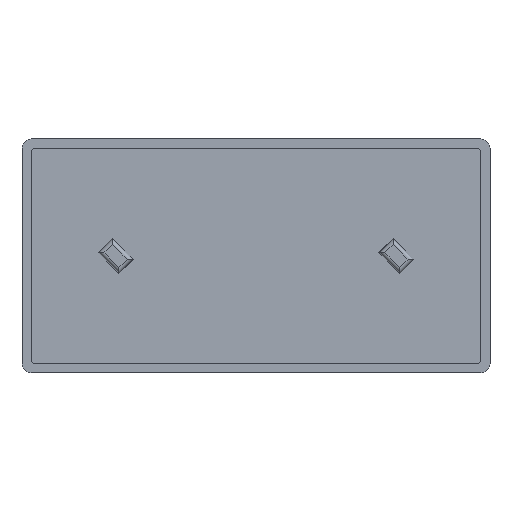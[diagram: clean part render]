
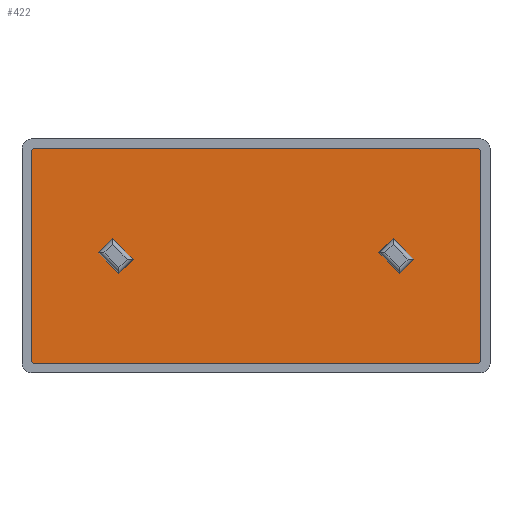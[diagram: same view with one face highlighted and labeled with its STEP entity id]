
A CAD part, front view. The second image highlights one B-rep face of the part: STEP entity #422.
In plain terms, the highlighted planar face has unit normal (0, -1, 0).
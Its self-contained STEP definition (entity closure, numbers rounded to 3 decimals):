
#14 = CARTESIAN_POINT ( 'NONE',  ( -47.2, 0., 23. ) ) ;
#16 = CARTESIAN_POINT ( 'NONE',  ( 47.2, 0., 22.2 ) ) ;
#24 = CARTESIAN_POINT ( 'NONE',  ( -48., 0., 22.2 ) ) ;
#32 = EDGE_CURVE ( 'NONE', #482, #255, #1279, .T. ) ;
#49 = EDGE_CURVE ( 'NONE', #406, #482, #990, .T. ) ;
#50 = AXIS2_PLACEMENT_3D ( 'NONE', #1079, #505, #1180 ) ;
#58 = CARTESIAN_POINT ( 'NONE',  ( -29.293, 0., -3.748 ) ) ;
#59 = CARTESIAN_POINT ( 'NONE',  ( -47.2, 0., -23. ) ) ;
#62 = CARTESIAN_POINT ( 'NONE',  ( -48., 0., -22.2 ) ) ;
#73 = DIRECTION ( 'NONE',  ( 1., 0., 0. ) ) ;
#86 = VECTOR ( 'NONE', #1117, 1000. ) ;
#93 = AXIS2_PLACEMENT_3D ( 'NONE', #16, #799, #127 ) ;
#94 = DIRECTION ( 'NONE',  ( 0., 0., -1. ) ) ;
#95 = ORIENTED_EDGE ( 'NONE', *, *, #1323, .T. ) ;
#98 = DIRECTION ( 'NONE',  ( 0., -1., 0. ) ) ;
#103 = CARTESIAN_POINT ( 'NONE',  ( -47.2, 0., -22.2 ) ) ;
#123 = DIRECTION ( 'NONE',  ( -1., 0., 0. ) ) ;
#125 = LINE ( 'NONE', #697, #942 ) ;
#127 = DIRECTION ( 'NONE',  ( 0., 0., -1. ) ) ;
#135 = DIRECTION ( 'NONE',  ( 0.707, 0., 0.707 ) ) ;
#139 = CARTESIAN_POINT ( 'NONE',  ( -30.707, 0., 3.748 ) ) ;
#151 = VERTEX_POINT ( 'NONE', #59 ) ;
#196 = DIRECTION ( 'NONE',  ( 0., 0., -1. ) ) ;
#204 = VECTOR ( 'NONE', #1174, 1000. ) ;
#207 = PLANE ( 'NONE',  #707 ) ;
#225 = CARTESIAN_POINT ( 'NONE',  ( -47.2, 0., 22.2 ) ) ;
#232 = CIRCLE ( 'NONE', #722, 0.8 ) ;
#255 = VERTEX_POINT ( 'NONE', #726 ) ;
#260 = ORIENTED_EDGE ( 'NONE', *, *, #1274, .F. ) ;
#283 = LINE ( 'NONE', #973, #1286 ) ;
#296 = DIRECTION ( 'NONE',  ( 0., -1., 0. ) ) ;
#310 = ORIENTED_EDGE ( 'NONE', *, *, #1256, .F. ) ;
#340 = LINE ( 'NONE', #841, #622 ) ;
#350 = CARTESIAN_POINT ( 'NONE',  ( -48., 0., 22.2 ) ) ;
#352 = ORIENTED_EDGE ( 'NONE', *, *, #1263, .T. ) ;
#360 = ORIENTED_EDGE ( 'NONE', *, *, #424, .T. ) ;
#386 = VECTOR ( 'NONE', #431, 1000. ) ;
#406 = VERTEX_POINT ( 'NONE', #448 ) ;
#417 = LINE ( 'NONE', #139, #86 ) ;
#422 = ADVANCED_FACE ( 'NONE', ( #829, #542, #1333 ), #207, .T. ) ;
#424 = EDGE_CURVE ( 'NONE', #480, #151, #232, .T. ) ;
#431 = DIRECTION ( 'NONE',  ( -0.707, 0., -0.707 ) ) ;
#440 = DIRECTION ( 'NONE',  ( 0., -1., 0. ) ) ;
#441 = ORIENTED_EDGE ( 'NONE', *, *, #1222, .T. ) ;
#448 = CARTESIAN_POINT ( 'NONE',  ( -33.748, 0., 0.707 ) ) ;
#461 = EDGE_LOOP ( 'NONE', ( #310, #260, #850, #530 ) ) ;
#468 = CARTESIAN_POINT ( 'NONE',  ( 26.252, 0., 0.707 ) ) ;
#480 = VERTEX_POINT ( 'NONE', #62 ) ;
#482 = VERTEX_POINT ( 'NONE', #58 ) ;
#494 = VECTOR ( 'NONE', #1273, 1000. ) ;
#501 = CARTESIAN_POINT ( 'NONE',  ( 29.293, 0., 3.748 ) ) ;
#502 = ORIENTED_EDGE ( 'NONE', *, *, #49, .F. ) ;
#505 = DIRECTION ( 'NONE',  ( 0., -1., 0. ) ) ;
#507 = CARTESIAN_POINT ( 'NONE',  ( 47.2, 0., 23. ) ) ;
#508 = AXIS2_PLACEMENT_3D ( 'NONE', #1028, #440, #1124 ) ;
#513 = CARTESIAN_POINT ( 'NONE',  ( 48., 0., -22.2 ) ) ;
#515 = DIRECTION ( 'NONE',  ( 0.707, 0., -0.707 ) ) ;
#518 = ORIENTED_EDGE ( 'NONE', *, *, #1285, .F. ) ;
#521 = CIRCLE ( 'NONE', #50, 0.8 ) ;
#530 = ORIENTED_EDGE ( 'NONE', *, *, #1246, .F. ) ;
#542 = FACE_OUTER_BOUND ( 'NONE', #721, .T. ) ;
#543 = VECTOR ( 'NONE', #877, 1000. ) ;
#547 = CARTESIAN_POINT ( 'NONE',  ( -33.748, 0., 0.707 ) ) ;
#551 = ORIENTED_EDGE ( 'NONE', *, *, #1239, .T. ) ;
#552 = EDGE_CURVE ( 'NONE', #1280, #480, #988, .T. ) ;
#554 = VECTOR ( 'NONE', #123, 1000. ) ;
#583 = CARTESIAN_POINT ( 'NONE',  ( 47.2, 0., -23. ) ) ;
#591 = DIRECTION ( 'NONE',  ( 0., 0., 1. ) ) ;
#622 = VECTOR ( 'NONE', #73, 1000. ) ;
#631 = CARTESIAN_POINT ( 'NONE',  ( -33.748, 0., 0.707 ) ) ;
#683 = VERTEX_POINT ( 'NONE', #768 ) ;
#689 = LINE ( 'NONE', #631, #386 ) ;
#693 = CARTESIAN_POINT ( 'NONE',  ( 30.707, 0., -3.748 ) ) ;
#697 = CARTESIAN_POINT ( 'NONE',  ( 26.252, 0., 0.707 ) ) ;
#707 = AXIS2_PLACEMENT_3D ( 'NONE', #225, #296, #196 ) ;
#721 = EDGE_LOOP ( 'NONE', ( #352, #1023, #360, #798, #95, #441, #551, #951 ) ) ;
#722 = AXIS2_PLACEMENT_3D ( 'NONE', #103, #98, #94 ) ;
#726 = CARTESIAN_POINT ( 'NONE',  ( -26.252, 0., -0.707 ) ) ;
#727 = CARTESIAN_POINT ( 'NONE',  ( -29.293, 0., -3.748 ) ) ;
#734 = VECTOR ( 'NONE', #1155, 1000. ) ;
#747 = LINE ( 'NONE', #693, #975 ) ;
#762 = CARTESIAN_POINT ( 'NONE',  ( -47.2, 0., 23. ) ) ;
#768 = CARTESIAN_POINT ( 'NONE',  ( 30.707, 0., -3.748 ) ) ;
#781 = VERTEX_POINT ( 'NONE', #1278 ) ;
#798 = ORIENTED_EDGE ( 'NONE', *, *, #1339, .T. ) ;
#799 = DIRECTION ( 'NONE',  ( 0., -1., 0. ) ) ;
#809 = VERTEX_POINT ( 'NONE', #1190 ) ;
#810 = VERTEX_POINT ( 'NONE', #507 ) ;
#814 = CIRCLE ( 'NONE', #93, 0.8 ) ;
#829 = FACE_BOUND ( 'NONE', #1238, .T. ) ;
#830 = VECTOR ( 'NONE', #515, 1000. ) ;
#841 = CARTESIAN_POINT ( 'NONE',  ( -47.2, 0., -23. ) ) ;
#850 = ORIENTED_EDGE ( 'NONE', *, *, #1247, .F. ) ;
#877 = DIRECTION ( 'NONE',  ( 0.707, 0., 0.707 ) ) ;
#934 = VERTEX_POINT ( 'NONE', #513 ) ;
#939 = CARTESIAN_POINT ( 'NONE',  ( 33.748, 0., -0.707 ) ) ;
#942 = VECTOR ( 'NONE', #982, 1000. ) ;
#951 = ORIENTED_EDGE ( 'NONE', *, *, #1215, .T. ) ;
#973 = CARTESIAN_POINT ( 'NONE',  ( 48., 0., 22.2 ) ) ;
#975 = VECTOR ( 'NONE', #135, 1000. ) ;
#982 = DIRECTION ( 'NONE',  ( 0.707, 0., -0.707 ) ) ;
#988 = LINE ( 'NONE', #350, #734 ) ;
#990 = LINE ( 'NONE', #547, #830 ) ;
#993 = ORIENTED_EDGE ( 'NONE', *, *, #32, .F. ) ;
#994 = VERTEX_POINT ( 'NONE', #939 ) ;
#1000 = LINE ( 'NONE', #501, #204 ) ;
#1023 = ORIENTED_EDGE ( 'NONE', *, *, #552, .T. ) ;
#1028 = CARTESIAN_POINT ( 'NONE',  ( 47.2, 0., -22.2 ) ) ;
#1070 = LINE ( 'NONE', #14, #554 ) ;
#1074 = VERTEX_POINT ( 'NONE', #762 ) ;
#1079 = CARTESIAN_POINT ( 'NONE',  ( -47.2, 0., 22.2 ) ) ;
#1087 = VERTEX_POINT ( 'NONE', #1334 ) ;
#1100 = VERTEX_POINT ( 'NONE', #468 ) ;
#1117 = DIRECTION ( 'NONE',  ( -0.707, 0., 0.707 ) ) ;
#1124 = DIRECTION ( 'NONE',  ( 0., 0., -1. ) ) ;
#1131 = ORIENTED_EDGE ( 'NONE', *, *, #1295, .F. ) ;
#1155 = DIRECTION ( 'NONE',  ( 0., 0., -1. ) ) ;
#1171 = CARTESIAN_POINT ( 'NONE',  ( 26.252, 0., 0.707 ) ) ;
#1174 = DIRECTION ( 'NONE',  ( -0.707, 0., 0.707 ) ) ;
#1180 = DIRECTION ( 'NONE',  ( 0., 0., -1. ) ) ;
#1190 = CARTESIAN_POINT ( 'NONE',  ( 48., 0., 22.2 ) ) ;
#1191 = VERTEX_POINT ( 'NONE', #583 ) ;
#1215 = EDGE_CURVE ( 'NONE', #810, #1074, #1070, .T. ) ;
#1222 = EDGE_CURVE ( 'NONE', #934, #809, #283, .T. ) ;
#1228 = CIRCLE ( 'NONE', #508, 0.8 ) ;
#1238 = EDGE_LOOP ( 'NONE', ( #993, #502, #1131, #518 ) ) ;
#1239 = EDGE_CURVE ( 'NONE', #809, #810, #814, .T. ) ;
#1246 = EDGE_CURVE ( 'NONE', #994, #781, #1000, .T. ) ;
#1247 = EDGE_CURVE ( 'NONE', #781, #1100, #1264, .T. ) ;
#1256 = EDGE_CURVE ( 'NONE', #683, #994, #747, .T. ) ;
#1263 = EDGE_CURVE ( 'NONE', #1074, #1280, #521, .T. ) ;
#1264 = LINE ( 'NONE', #1171, #494 ) ;
#1273 = DIRECTION ( 'NONE',  ( -0.707, 0., -0.707 ) ) ;
#1274 = EDGE_CURVE ( 'NONE', #1100, #683, #125, .T. ) ;
#1278 = CARTESIAN_POINT ( 'NONE',  ( 29.293, 0., 3.748 ) ) ;
#1279 = LINE ( 'NONE', #727, #543 ) ;
#1280 = VERTEX_POINT ( 'NONE', #24 ) ;
#1285 = EDGE_CURVE ( 'NONE', #255, #1087, #417, .T. ) ;
#1286 = VECTOR ( 'NONE', #591, 1000. ) ;
#1295 = EDGE_CURVE ( 'NONE', #1087, #406, #689, .T. ) ;
#1323 = EDGE_CURVE ( 'NONE', #1191, #934, #1228, .T. ) ;
#1333 = FACE_BOUND ( 'NONE', #461, .T. ) ;
#1334 = CARTESIAN_POINT ( 'NONE',  ( -30.707, 0., 3.748 ) ) ;
#1339 = EDGE_CURVE ( 'NONE', #151, #1191, #340, .T. ) ;
